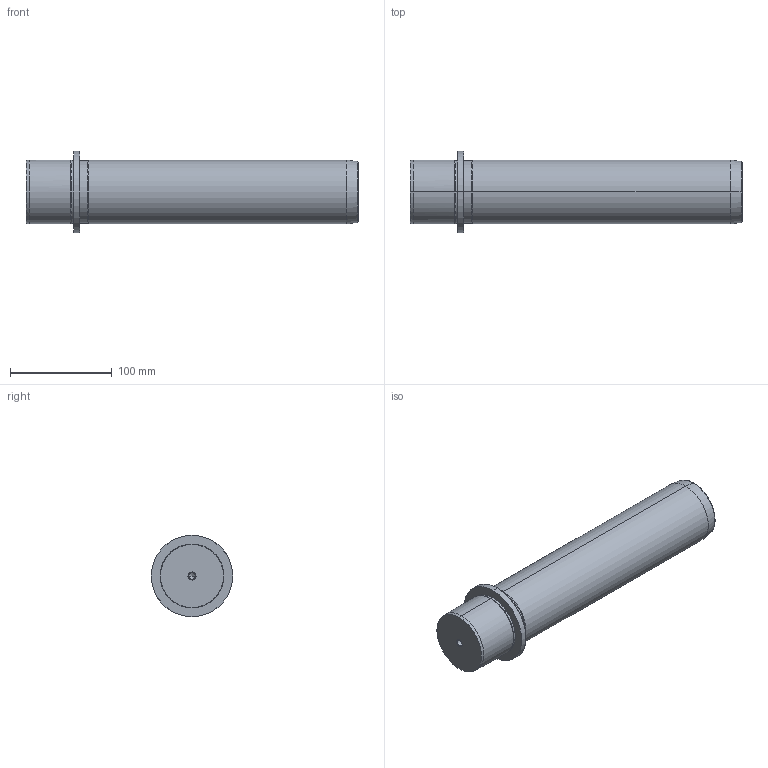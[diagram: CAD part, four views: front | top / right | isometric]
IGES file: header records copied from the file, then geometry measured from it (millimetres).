
Start section: START RECORD GO HERE.
Global section: file name: 718-63x280.igs; native system: DASSAULT SYSTEMES CATIA V5 R20 - www.3ds.com; preprocessor: CATIA Version 5 Release 20 ; author: Utente; organization: NB04-ASUS; date: 20210102.084257; units: millimetre
Bounding box: 327 x 80 x 80 mm (x, y, z)
Surface area: 75833.5 mm2 (no closed solid volume)
Topology: 0 solids, 0 shells, 36 faces, 196 edges, 192 vertices
Faces by surface type: revolution 32, plane 4
